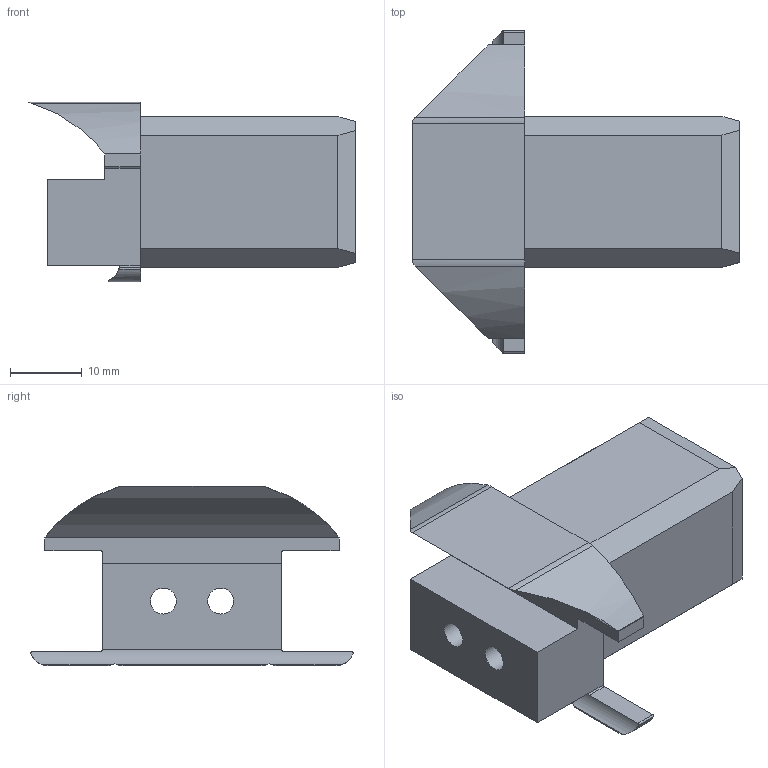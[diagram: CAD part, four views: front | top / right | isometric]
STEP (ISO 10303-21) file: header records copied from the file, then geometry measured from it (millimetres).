
FILE_DESCRIPTION (( 'STEP AP214' ), '1' );
FILE_NAME ('L15829.step', '2024-12-03T16:19:35', ( '' ), ( '' ), 'SwSTEP 2.0', 'SolidWorks 2023', '' );
FILE_SCHEMA (( 'AUTOMOTIVE_DESIGN' ));
Length unit declared in the file: millimetre
Products named in the file (1): L15829
Bounding box: 45.66 x 44.88 x 25 mm (x, y, z)
Volume: 13077.7 mm3; surface area: 7633.1 mm2
Topology: 1 solids, 1 shells, 60 faces, 168 edges, 112 vertices
Faces by surface type: plane 38, cylinder 22
Full cylindrical faces by diameter (mm): 3.6 x2
Entity records: 1989 total; most frequent: CARTESIAN_POINT 415, ORIENTED_EDGE 332, DIRECTION 306, EDGE_CURVE 166, VECTOR 116, LINE 116, VERTEX_POINT 112, AXIS2_PLACEMENT_3D 95
